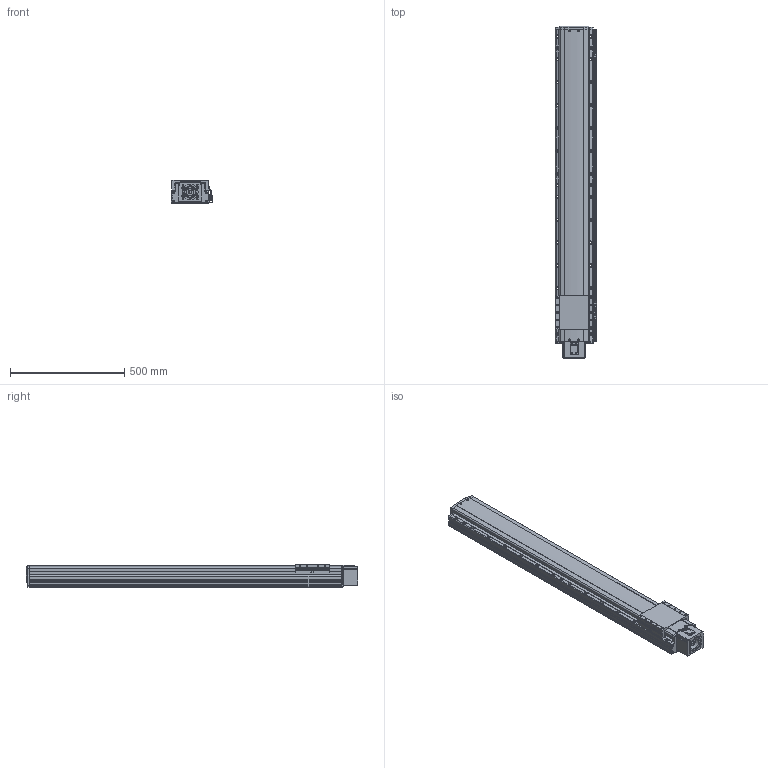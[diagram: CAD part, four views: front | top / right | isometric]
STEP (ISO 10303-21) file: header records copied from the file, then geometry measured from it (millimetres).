
FILE_DESCRIPTION(('STEP AP214'),'1');
FILE_NAME('Z:/Web/3D/PSA165/STP/PSA165-1100 (3D)/PSA165ㅁㅁ-1100S+3SR.stp','2014-06-24T10:25:23',(' '),(' '),'Spatial InterOp 3D',' ',' ');
FILE_SCHEMA(('automotive_design'));
Length unit declared in the file: millimetre
Products named in the file (85): 스크루 : Round - M4.0 x 12.0; RRCV-PA160; BASE; 스크루 : Round - M4.0 x 10.0; RN15; Screw 20; SLIDE; FRCV; 스크루 : Socket - M6.0 x 25.0; MTHZ-SAN150-80A; SSFX-SAN65; CPLCV-SAN65; 스크루 : Round - M3.0 x 6.0; SDWA47C(2); SDWA47C(3-1); SDWA47C(3); SDWA47C(1); SDWA47C(4); SDWA47C(5); M3.0 x 6.0; SRL-16x17-360L; SGD-SAN150; EE-SX674; SBK-SX674-352; BHCS M4.0 x 10.0
Bounding box: 181 x 1449.8 x 104 mm (x, y, z)
Volume: 19545728.6 mm3; surface area: 1412294.3 mm2
Topology: 85 solids, 85 shells, 3597 faces, 9567 edges, 6169 vertices
Faces by surface type: plane 1763, cylinder 1304, cone 401, sphere 70, bspline 35, torus 24
Entity records: 147025 total; most frequent: CARTESIAN_POINT 25240, DIRECTION 19871, ORIENTED_EDGE 18790, EDGE_CURVE 9395, AXIS2_PLACEMENT_3D 7130, VERTEX_POINT 6169, LINE 5611, VECTOR 5611
